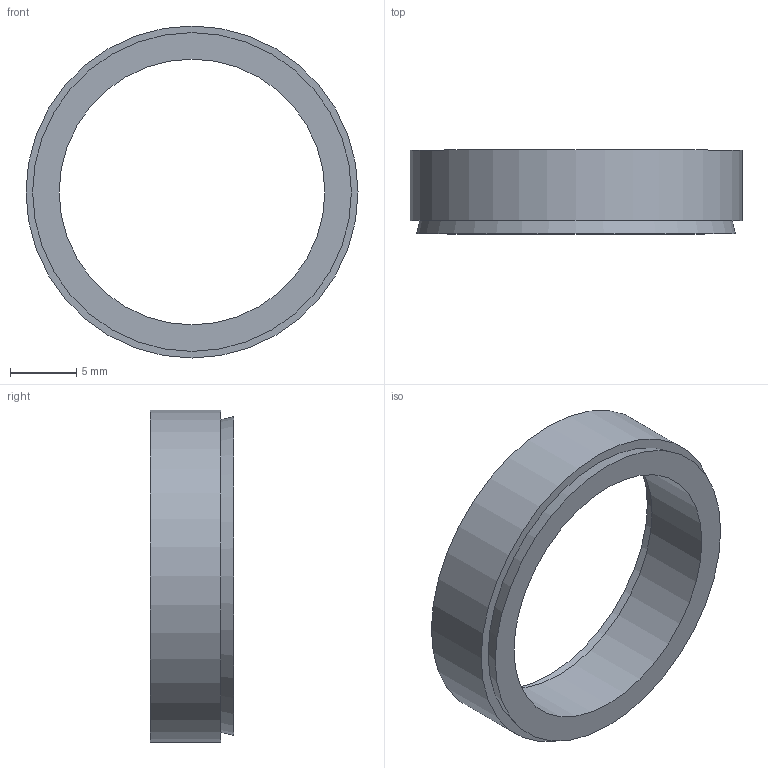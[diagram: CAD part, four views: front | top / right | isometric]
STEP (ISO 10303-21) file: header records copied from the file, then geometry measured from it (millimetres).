
FILE_DESCRIPTION( ( 'Unknown' ), '1' );
FILE_NAME( 'C:/Dokumente und Einstellungen/Sven/Desktop/homepage/cad - homepage/KBS50/KBS 50 - 20 x 25.stp', 'Unknown', ( 'Unknown' ), ( 'Unknown' ), 'XStep 1.0', 'Unknown', ' ' );
FILE_SCHEMA( ( 'automotive_design' ) );
Length unit declared in the file: millimetre
Products named in the file (1): 1
Bounding box: 25 x 6.3 x 25 mm (x, y, z)
Volume: 1025.8 mm3; surface area: 1281.7 mm2
Topology: 1 solids, 1 shells, 8 faces, 12 edges, 8 vertices
Faces by surface type: plane 4, cylinder 2, cone 2
Full cylindrical faces by diameter (mm): 20 x1, 25 x1
Entity records: 248 total; most frequent: DIRECTION 34, CARTESIAN_POINT 25, AXIS2_PLACEMENT_3D 17, EDGE_LOOP 16, ORIENTED_EDGE 16, FACE_OUTER_BOUND 10, STYLED_ITEM 8, PRESENTATION_STYLE_ASSIGNMENT 8
